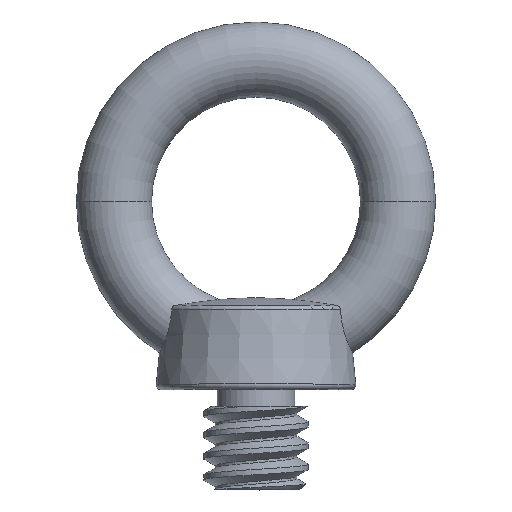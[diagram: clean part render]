
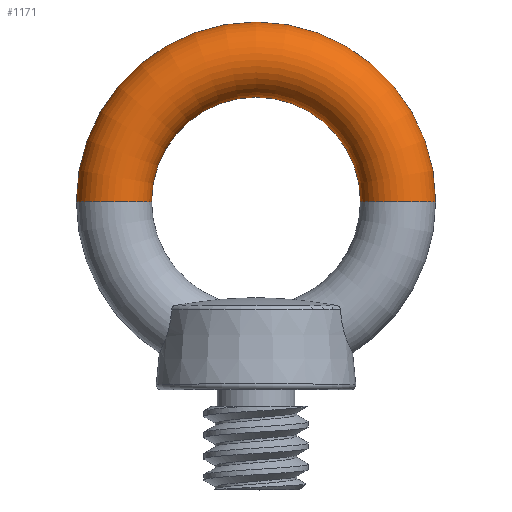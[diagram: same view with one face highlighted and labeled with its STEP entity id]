
A CAD part, top view. The second image highlights one B-rep face of the part: STEP entity #1171.
In plain terms, the highlighted toroidal (fillet/blend) face has major radius 8.5 mm and minor radius 2.25 mm.
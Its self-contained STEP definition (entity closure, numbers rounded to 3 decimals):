
#85 = CARTESIAN_POINT ( 'NONE',  ( 0., 0., 0. ) ) ;
#151 = CARTESIAN_POINT ( 'NONE',  ( -6.25, 0., 0. ) ) ;
#224 = CARTESIAN_POINT ( 'NONE',  ( -8.5, 0., 0. ) ) ;
#249 = DIRECTION ( 'NONE',  ( 0., 0., 1. ) ) ;
#317 = CIRCLE ( 'NONE', #1401, 2.25 ) ;
#348 = CIRCLE ( 'NONE', #2148, 10.75 ) ;
#355 = ORIENTED_EDGE ( 'NONE', *, *, #1002, .T. ) ;
#413 = AXIS2_PLACEMENT_3D ( 'NONE', #1447, #451, #1297 ) ;
#451 = DIRECTION ( 'NONE',  ( 0., -1., 0. ) ) ;
#664 = ORIENTED_EDGE ( 'NONE', *, *, #1342, .F. ) ;
#721 = DIRECTION ( 'NONE',  ( -1., 0., 0. ) ) ;
#762 = ORIENTED_EDGE ( 'NONE', *, *, #1615, .T. ) ;
#791 = EDGE_LOOP ( 'NONE', ( #1591, #355, #762, #664 ) ) ;
#812 = CIRCLE ( 'NONE', #2015, 6.25 ) ;
#820 = VERTEX_POINT ( 'NONE', #1382 ) ;
#1002 = EDGE_CURVE ( 'NONE', #1882, #1678, #348, .T. ) ;
#1077 = CARTESIAN_POINT ( 'NONE',  ( 0., 0., 0. ) ) ;
#1116 = DIRECTION ( 'NONE',  ( 0., 0., 1. ) ) ;
#1159 = CARTESIAN_POINT ( 'NONE',  ( 0., 0., 0. ) ) ;
#1169 = CARTESIAN_POINT ( 'NONE',  ( 10.75, 0., 0. ) ) ;
#1171 = ADVANCED_FACE ( 'NONE', ( #1543 ), #2112, .T. ) ;
#1295 = DIRECTION ( 'NONE',  ( 1., 0., 0. ) ) ;
#1297 = DIRECTION ( 'NONE',  ( 0., 0., -1. ) ) ;
#1342 = EDGE_CURVE ( 'NONE', #820, #1900, #812, .T. ) ;
#1382 = CARTESIAN_POINT ( 'NONE',  ( 6.25, 0., 0. ) ) ;
#1401 = AXIS2_PLACEMENT_3D ( 'NONE', #224, #2092, #721 ) ;
#1447 = CARTESIAN_POINT ( 'NONE',  ( 8.5, 0., 0. ) ) ;
#1543 = FACE_OUTER_BOUND ( 'NONE', #791, .T. ) ;
#1591 = ORIENTED_EDGE ( 'NONE', *, *, #1699, .F. ) ;
#1615 = EDGE_CURVE ( 'NONE', #1678, #1900, #317, .T. ) ;
#1642 = CIRCLE ( 'NONE', #413, 2.25 ) ;
#1675 = DIRECTION ( 'NONE',  ( 0., 0., 1. ) ) ;
#1678 = VERTEX_POINT ( 'NONE', #1920 ) ;
#1699 = EDGE_CURVE ( 'NONE', #1882, #820, #1642, .T. ) ;
#1796 = DIRECTION ( 'NONE',  ( 1., 0., 0. ) ) ;
#1882 = VERTEX_POINT ( 'NONE', #1169 ) ;
#1900 = VERTEX_POINT ( 'NONE', #151 ) ;
#1920 = CARTESIAN_POINT ( 'NONE',  ( -10.75, 0., 0. ) ) ;
#2015 = AXIS2_PLACEMENT_3D ( 'NONE', #1159, #1675, #2200 ) ;
#2092 = DIRECTION ( 'NONE',  ( 0., 1., 0. ) ) ;
#2104 = AXIS2_PLACEMENT_3D ( 'NONE', #1077, #249, #1796 ) ;
#2112 = TOROIDAL_SURFACE ( 'NONE', #2104, 8.5, 2.25 ) ;
#2148 = AXIS2_PLACEMENT_3D ( 'NONE', #85, #1116, #1295 ) ;
#2200 = DIRECTION ( 'NONE',  ( 1., 0., 0. ) ) ;
